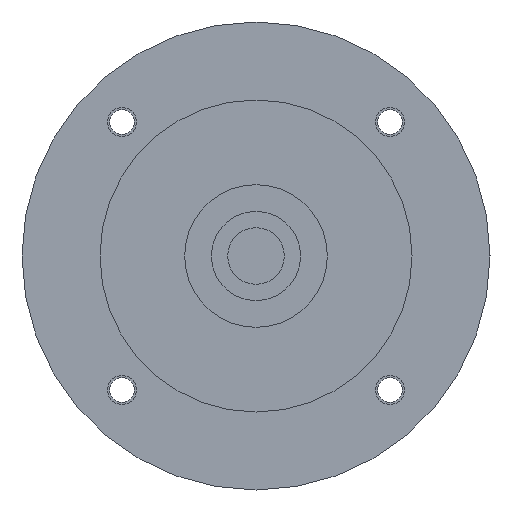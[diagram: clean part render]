
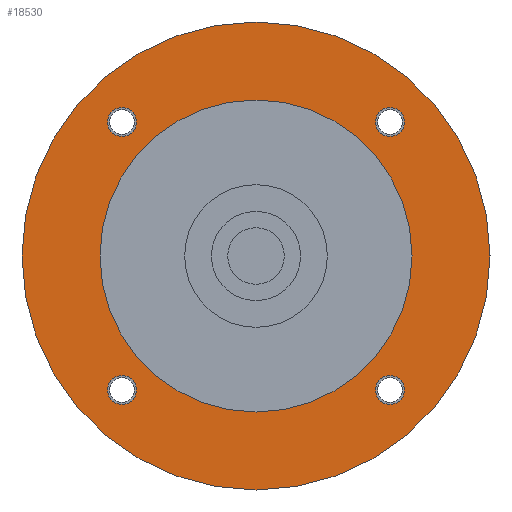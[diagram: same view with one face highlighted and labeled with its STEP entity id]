
A CAD part, left-side view. The second image highlights one B-rep face of the part: STEP entity #18530.
In plain terms, the highlighted planar face has unit normal (-1, 0, 0) as drawn and (0, 0, -1) by its records, which use the part's own axes.
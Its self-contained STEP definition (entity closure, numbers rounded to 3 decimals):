
#17200=CARTESIAN_POINT('',(52.5,0.,-91.5));
#17210=VERTEX_POINT('',#17200);
#17240=CARTESIAN_POINT('',(0.,0.,
-91.5));
#17250=DIRECTION('',(0.,0.,1.));
#17260=DIRECTION('',(0.,-1.,0.));
#17270=AXIS2_PLACEMENT_3D('',#17240,#17250,#17260);
#17280=CIRCLE('',#17270,52.5);
#17290=CARTESIAN_POINT('',(0.,-52.5,-91.5));
#17300=VERTEX_POINT('',#17290);
#17310=EDGE_CURVE('',#17300,#17210,#17280,.T.);
#17330=CARTESIAN_POINT('',(-52.5,0.,-91.5));
#17340=VERTEX_POINT('',#17330);
#17350=EDGE_CURVE('',#17340,#17300,#17280,.T.);
#17470=CARTESIAN_POINT('',(0.,0.,
-91.5));
#17480=DIRECTION('',(0.,0.,1.));
#17490=DIRECTION('',(-1.,0.,0.));
#17500=AXIS2_PLACEMENT_3D('',#17470,#17480,#17490);
#17510=PLANE('',#17500);
#17520=CARTESIAN_POINT('',(30.052,-30.052,-91.5));
#17530=DIRECTION('',(0.,0.,-1.));
#17540=DIRECTION('',(1.,0.,0.));
#17550=AXIS2_PLACEMENT_3D('',#17520,#17530,#17540);
#17560=CIRCLE('',#17550,3.25);
#17570=CARTESIAN_POINT('',(33.302,-30.052,-91.5));
#17580=VERTEX_POINT('',#17570);
#17590=CARTESIAN_POINT('',(30.052,-33.302,-91.5));
#17600=VERTEX_POINT('',#17590);
#17610=EDGE_CURVE('',#17580,#17600,#17560,.T.);
#17620=ORIENTED_EDGE('',*,*,#17610,.F.);
#17630=CARTESIAN_POINT('',(30.052,-26.802,-91.5));
#17640=VERTEX_POINT('',#17630);
#17650=EDGE_CURVE('',#17600,#17640,#17560,.T.);
#17660=ORIENTED_EDGE('',*,*,#17650,.F.);
#17670=EDGE_CURVE('',#17640,#17580,#17560,.T.);
#17680=ORIENTED_EDGE('',*,*,#17670,.F.);
#17690=EDGE_LOOP('',(#17680,#17660,#17620));
#17700=FACE_BOUND('',#17690,.T.);
#17710=CARTESIAN_POINT('',(30.052,30.052,-91.5));
#17720=DIRECTION('',(0.,0.,-1.));
#17730=DIRECTION('',(0.,1.,0.));
#17740=AXIS2_PLACEMENT_3D('',#17710,#17720,#17730);
#17750=CIRCLE('',#17740,3.25);
#17760=CARTESIAN_POINT('',(30.052,33.302,-91.5));
#17770=VERTEX_POINT('',#17760);
#17780=CARTESIAN_POINT('',(33.302,30.052,-91.5));
#17790=VERTEX_POINT('',#17780);
#17800=EDGE_CURVE('',#17770,#17790,#17750,.T.);
#17810=ORIENTED_EDGE('',*,*,#17800,.F.);
#17820=CARTESIAN_POINT('',(26.802,30.052,-91.5));
#17830=VERTEX_POINT('',#17820);
#17840=EDGE_CURVE('',#17790,#17830,#17750,.T.);
#17850=ORIENTED_EDGE('',*,*,#17840,.F.);
#17860=EDGE_CURVE('',#17830,#17770,#17750,.T.);
#17870=ORIENTED_EDGE('',*,*,#17860,.F.);
#17880=EDGE_LOOP('',(#17870,#17850,#17810));
#17890=FACE_BOUND('',#17880,.T.);
#17900=CARTESIAN_POINT('',(-30.052,30.052,-91.5));
#17910=DIRECTION('',(0.,0.,-1.));
#17920=DIRECTION('',(-1.,0.,0.));
#17930=AXIS2_PLACEMENT_3D('',#17900,#17910,#17920);
#17940=CIRCLE('',#17930,3.25);
#17950=CARTESIAN_POINT('',(-33.302,30.052,-91.5));
#17960=VERTEX_POINT('',#17950);
#17970=CARTESIAN_POINT('',(-30.052,33.302,-91.5));
#17980=VERTEX_POINT('',#17970);
#17990=EDGE_CURVE('',#17960,#17980,#17940,.T.);
#18000=ORIENTED_EDGE('',*,*,#17990,.F.);
#18010=CARTESIAN_POINT('',(-30.052,26.802,-91.5));
#18020=VERTEX_POINT('',#18010);
#18030=EDGE_CURVE('',#17980,#18020,#17940,.T.);
#18040=ORIENTED_EDGE('',*,*,#18030,.F.);
#18050=EDGE_CURVE('',#18020,#17960,#17940,.T.);
#18060=ORIENTED_EDGE('',*,*,#18050,.F.);
#18070=EDGE_LOOP('',(#18060,#18040,#18000));
#18080=FACE_BOUND('',#18070,.T.);
#18090=CARTESIAN_POINT('',(-30.052,-30.052,-91.5));
#18100=DIRECTION('',(0.,0.,-1.));
#18110=DIRECTION('',(0.,-1.,0.));
#18120=AXIS2_PLACEMENT_3D('',#18090,#18100,#18110);
#18130=CIRCLE('',#18120,3.25);
#18140=CARTESIAN_POINT('',(-30.052,-33.302,-91.5));
#18150=VERTEX_POINT('',#18140);
#18160=CARTESIAN_POINT('',(-33.302,-30.052,-91.5));
#18170=VERTEX_POINT('',#18160);
#18180=EDGE_CURVE('',#18150,#18170,#18130,.T.);
#18190=ORIENTED_EDGE('',*,*,#18180,.F.);
#18200=CARTESIAN_POINT('',(-26.802,-30.052,-91.5));
#18210=VERTEX_POINT('',#18200);
#18220=EDGE_CURVE('',#18170,#18210,#18130,.T.);
#18230=ORIENTED_EDGE('',*,*,#18220,.F.);
#18240=EDGE_CURVE('',#18210,#18150,#18130,.T.);
#18250=ORIENTED_EDGE('',*,*,#18240,.F.);
#18260=EDGE_LOOP('',(#18250,#18230,#18190));
#18270=FACE_BOUND('',#18260,.T.);
#18280=ORIENTED_EDGE('',*,*,#17310,.F.);
#18290=EDGE_CURVE('',#17210,#17340,#17280,.T.);
#18300=ORIENTED_EDGE('',*,*,#18290,.F.);
#18310=ORIENTED_EDGE('',*,*,#17350,.F.);
#18320=EDGE_LOOP('',(#18310,#18300,#18280));
#18330=FACE_OUTER_BOUND('',#18320,.T.);
#18340=CARTESIAN_POINT('',(0.,0.,
-91.5));
#18350=DIRECTION('',(0.,0.,1.));
#18360=DIRECTION('',(0.,-1.,0.));
#18370=AXIS2_PLACEMENT_3D('',#18340,#18350,#18360);
#18380=CIRCLE('',#18370,35.);
#18390=CARTESIAN_POINT('',(35.,0.,-91.5));
#18400=VERTEX_POINT('',#18390);
#18410=CARTESIAN_POINT('',(-35.,0.,-91.5));
#18420=VERTEX_POINT('',#18410);
#18430=EDGE_CURVE('',#18400,#18420,#18380,.T.);
#18440=ORIENTED_EDGE('',*,*,#18430,.T.);
#18450=CARTESIAN_POINT('',(0.,-35.,-91.5));
#18460=VERTEX_POINT('',#18450);
#18470=EDGE_CURVE('',#18460,#18400,#18380,.T.);
#18480=ORIENTED_EDGE('',*,*,#18470,.T.);
#18490=EDGE_CURVE('',#18420,#18460,#18380,.T.);
#18500=ORIENTED_EDGE('',*,*,#18490,.T.);
#18510=EDGE_LOOP('',(#18500,#18480,#18440));
#18520=FACE_BOUND('',#18510,.T.);
#18530=ADVANCED_FACE('',(#17700,#17890,#18080,#18270,#18330,#18520),
#17510,.F.);
